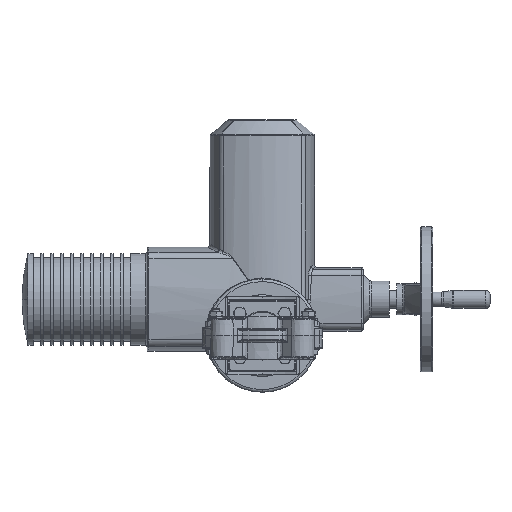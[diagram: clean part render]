
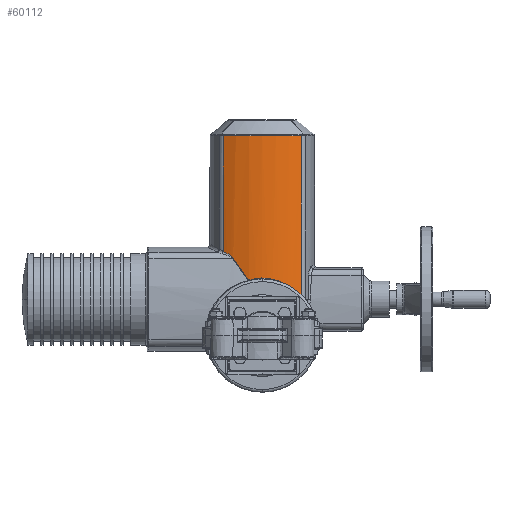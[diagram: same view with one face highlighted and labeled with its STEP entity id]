
A CAD part, front view. The second image highlights one B-rep face of the part: STEP entity #60112.
In plain terms, the highlighted cylindrical face has radius 100 mm (diameter 200 mm), a partial arc.
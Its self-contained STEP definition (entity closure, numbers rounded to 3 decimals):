
#91 = CIRCLE ( 'NONE', #32366, 100. ) ;
#2020 = VERTEX_POINT ( 'NONE', #78765 ) ;
#2312 = VERTEX_POINT ( 'NONE', #123331 ) ;
#3168 = CARTESIAN_POINT ( 'NONE',  ( 37.328, 334.227, 47.213 ) ) ;
#5033 = B_SPLINE_CURVE_WITH_KNOTS ( 'NONE', 3,
 ( #43926, #53261, #5104, #73198, #14887, #82954, #24746, #92772 ),
 .UNSPECIFIED., .F., .F.,
 ( 4, 2, 2, 4 ),
 ( 0., 0.002, 0.003, 0.007 ),
 .UNSPECIFIED. ) ;
#5104 = CARTESIAN_POINT ( 'NONE',  ( 38.764, 334.818, 46.82 ) ) ;
#5916 = CARTESIAN_POINT ( 'NONE',  ( 3.673, 327.04, 63.181 ) ) ;
#6329 = CARTESIAN_POINT ( 'NONE',  ( 27.641, 330.874, 54.766 ) ) ;
#8535 = CARTESIAN_POINT ( 'NONE',  ( -33.565, 332.8, 86.957 ) ) ;
#14887 = CARTESIAN_POINT ( 'NONE',  ( 40.164, 335.419, 46.232 ) ) ;
#15397 = VERTEX_POINT ( 'NONE', #24435 ) ;
#15715 = CARTESIAN_POINT ( 'NONE',  ( 8.354, 327.343, 62.546 ) ) ;
#15823 = VECTOR ( 'NONE', #23556, 1000. ) ;
#15923 = DIRECTION ( 'NONE',  ( -1., 0., 0. ) ) ;
#16119 = CARTESIAN_POINT ( 'NONE',  ( 33.093, 332.616, 50.604 ) ) ;
#16478 = EDGE_CURVE ( 'NONE', #15397, #70849, #67644, .T. ) ;
#17451 = B_SPLINE_CURVE_WITH_KNOTS ( 'NONE', 3,
 ( #24295, #53256, #34115, #102142 ),
 .UNSPECIFIED., .F., .F.,
 ( 4, 4 ),
 ( 0., 0.03 ),
 .UNSPECIFIED. ) ;
#17984 = CARTESIAN_POINT ( 'NONE',  ( -43.041, 336.737, 92.391 ) ) ;
#20325 = EDGE_CURVE ( 'NONE', #90077, #2020, #95066, .T. ) ;
#23556 = DIRECTION ( 'NONE',  ( 0., 0., -1. ) ) ;
#24115 = ORIENTED_EDGE ( 'NONE', *, *, #74966, .T. ) ;
#24295 = CARTESIAN_POINT ( 'NONE',  ( -32.064, 332.28, 85.242 ) ) ;
#24435 = CARTESIAN_POINT ( 'NONE',  ( -43.041, 336.737, 220.035 ) ) ;
#24746 = CARTESIAN_POINT ( 'NONE',  ( 42.296, 336.381, 44.907 ) ) ;
#25123 = CARTESIAN_POINT ( 'NONE',  ( -10.443, 327.52, 62.174 ) ) ;
#25550 = CARTESIAN_POINT ( 'NONE',  ( 11.825, 327.695, 61.802 ) ) ;
#25974 = CARTESIAN_POINT ( 'NONE',  ( 36.396, 333.858, 47.439 ) ) ;
#28883 = DIRECTION ( 'NONE',  ( 0., 0., -1. ) ) ;
#29563 = ORIENTED_EDGE ( 'NONE', *, *, #39363, .T. ) ;
#30307 = FACE_OUTER_BOUND ( 'NONE', #48445, .T. ) ;
#32366 = AXIS2_PLACEMENT_3D ( 'NONE', #87107, #28883, #96858 ) ;
#34115 = CARTESIAN_POINT ( 'NONE',  ( -20.733, 328.999, 69.042 ) ) ;
#34947 = CARTESIAN_POINT ( 'NONE',  ( -14.967, 328.126, 60.881 ) ) ;
#35158 = DIRECTION ( 'NONE',  ( 0., 0., -1. ) ) ;
#35374 = CARTESIAN_POINT ( 'NONE',  ( 17.386, 328.499, 60.082 ) ) ;
#39363 = EDGE_CURVE ( 'NONE', #87519, #99340, #99956, .T. ) ;
#41534 = CARTESIAN_POINT ( 'NONE',  ( -14.967, 328.126, 60.881 ) ) ;
#41992 = CARTESIAN_POINT ( 'NONE',  ( 36.396, 333.858, 47.439 ) ) ;
#42014 = ORIENTED_EDGE ( 'NONE', *, *, #20325, .F. ) ;
#43044 = ORIENTED_EDGE ( 'NONE', *, *, #117331, .T. ) ;
#43926 = CARTESIAN_POINT ( 'NONE',  ( 37.791, 334.416, 47.097 ) ) ;
#44744 = CARTESIAN_POINT ( 'NONE',  ( -6.964, 327.236, 62.77 ) ) ;
#45150 = CARTESIAN_POINT ( 'NONE',  ( 21.604, 329.356, 58.202 ) ) ;
#45273 = CARTESIAN_POINT ( 'NONE',  ( 43.041, 336.737, 220.035 ) ) ;
#47352 = CARTESIAN_POINT ( 'NONE',  ( -39.094, 334.952, 90.65 ) ) ;
#47812 = B_SPLINE_CURVE_WITH_KNOTS ( 'NONE', 3,
 ( #41992, #51776, #3168, #71275 ),
 .UNSPECIFIED., .F., .F.,
 ( 4, 4 ),
 ( 0.008, 0.009 ),
 .UNSPECIFIED. ) ;
#48445 = EDGE_LOOP ( 'NONE', ( #83744, #114310, #70071, #29563, #24115, #49627, #42014, #43044 ) ) ;
#48582 = AXIS2_PLACEMENT_3D ( 'NONE', #93384, #35158, #15923 ) ;
#49627 = ORIENTED_EDGE ( 'NONE', *, *, #122247, .T. ) ;
#51776 = CARTESIAN_POINT ( 'NONE',  ( 36.862, 334.041, 47.327 ) ) ;
#53256 = CARTESIAN_POINT ( 'NONE',  ( -26.44, 330.376, 77.158 ) ) ;
#53261 = CARTESIAN_POINT ( 'NONE',  ( 38.283, 334.617, 46.974 ) ) ;
#54495 = CARTESIAN_POINT ( 'NONE',  ( -3.436, 327.052, 63.155 ) ) ;
#54933 = CARTESIAN_POINT ( 'NONE',  ( 23.652, 329.836, 57.129 ) ) ;
#57162 = CARTESIAN_POINT ( 'NONE',  ( -36.228, 333.787, 89.011 ) ) ;
#60112 = ADVANCED_FACE ( 'NONE', ( #30307 ), #69792, .T. ) ;
#64335 = CARTESIAN_POINT ( 'NONE',  ( 1.316, 326.981, 63.304 ) ) ;
#64740 = CARTESIAN_POINT ( 'NONE',  ( 25.164, 330.217, 56.268 ) ) ;
#66920 = CARTESIAN_POINT ( 'NONE',  ( -33.985, 332.951, 87.329 ) ) ;
#67644 = LINE ( 'NONE', #110311, #15823 ) ;
#69792 = CYLINDRICAL_SURFACE ( 'NONE', #48582, 100. ) ;
#70071 = ORIENTED_EDGE ( 'NONE', *, *, #88634, .T. ) ;
#70849 = VERTEX_POINT ( 'NONE', #70902 ) ;
#70902 = CARTESIAN_POINT ( 'NONE',  ( -43.041, 336.737, 92.391 ) ) ;
#71275 = CARTESIAN_POINT ( 'NONE',  ( 37.791, 334.416, 47.097 ) ) ;
#73198 = CARTESIAN_POINT ( 'NONE',  ( 39.706, 335.219, 46.448 ) ) ;
#73331 = CARTESIAN_POINT ( 'NONE',  ( 36.396, 333.858, 47.439 ) ) ;
#74020 = CARTESIAN_POINT ( 'NONE',  ( 7.186, 327.252, 62.737 ) ) ;
#74439 = CARTESIAN_POINT ( 'NONE',  ( 29.519, 331.438, 53.45 ) ) ;
#74966 = EDGE_CURVE ( 'NONE', #99340, #86247, #47812, .T. ) ;
#76665 = CARTESIAN_POINT ( 'NONE',  ( -32.772, 332.521, 86.153 ) ) ;
#78765 = CARTESIAN_POINT ( 'NONE',  ( 43.041, 336.737, 44.194 ) ) ;
#80446 = CARTESIAN_POINT ( 'NONE',  ( 43.041, 336.737, 237.75 ) ) ;
#82954 = CARTESIAN_POINT ( 'NONE',  ( 41.482, 336.005, 45.502 ) ) ;
#83744 = ORIENTED_EDGE ( 'NONE', *, *, #16478, .T. ) ;
#83785 = CARTESIAN_POINT ( 'NONE',  ( 10.68, 327.565, 62.077 ) ) ;
#84209 = CARTESIAN_POINT ( 'NONE',  ( 34.788, 333.23, 49.074 ) ) ;
#86247 = VERTEX_POINT ( 'NONE', #114032 ) ;
#87107 = CARTESIAN_POINT ( 'NONE',  ( 0., 427., 220.035 ) ) ;
#87519 = VERTEX_POINT ( 'NONE', #41534 ) ;
#88634 = EDGE_CURVE ( 'NONE', #2312, #87519, #17451, .T. ) ;
#90077 = VERTEX_POINT ( 'NONE', #45273 ) ;
#90284 = DIRECTION ( 'NONE',  ( 0., 0., -1. ) ) ;
#90366 = B_SPLINE_CURVE_WITH_KNOTS ( 'NONE', 3,
 ( #17984, #124745, #105635, #47352, #115403, #57162, #125190, #66920, #8535, #76665, #101066, #106455 ),
 .UNSPECIFIED., .F., .F.,
 ( 4, 2, 2, 2, 2, 4 ),
 ( 0., 0.003, 0.007, 0.01, 0.012, 0.014 ),
 .UNSPECIFIED. ) ;
#92051 = VECTOR ( 'NONE', #90284, 1000. ) ;
#92772 = CARTESIAN_POINT ( 'NONE',  ( 43.041, 336.737, 44.194 ) ) ;
#93182 = CARTESIAN_POINT ( 'NONE',  ( -12.724, 327.787, 61.609 ) ) ;
#93384 = CARTESIAN_POINT ( 'NONE',  ( 0., 427., 237.75 ) ) ;
#93594 = CARTESIAN_POINT ( 'NONE',  ( 15.204, 328.137, 60.862 ) ) ;
#95066 = LINE ( 'NONE', #80446, #92051 ) ;
#96858 = DIRECTION ( 'NONE',  ( 1., 0., 0. ) ) ;
#99340 = VERTEX_POINT ( 'NONE', #73331 ) ;
#99956 = B_SPLINE_CURVE_WITH_KNOTS ( 'NONE', 3,
 ( #34947, #93182, #25123, #44744, #112723, #54495, #122536, #64335, #5916, #74020, #15715, #83785, #25550, #93594, #35374, #103402, #45150, #113145, #54933, #122937, #64740, #6329, #74439, #16119, #84209, #25974 ),
 .UNSPECIFIED., .F., .F.,
 ( 4, 2, 2, 2, 2, 2, 2, 2, 2, 2, 2, 2, 4 ),
 ( 0., 0.007, 0.011, 0.014, 0.021, 0.025, 0.028, 0.035, 0.039, 0.041, 0.042, 0.05, 0.057 ),
 .UNSPECIFIED. ) ;
#101066 = CARTESIAN_POINT ( 'NONE',  ( -32.398, 332.393, 85.723 ) ) ;
#102142 = CARTESIAN_POINT ( 'NONE',  ( -14.967, 328.126, 60.881 ) ) ;
#103402 = CARTESIAN_POINT ( 'NONE',  ( 20.562, 329.131, 58.699 ) ) ;
#105635 = CARTESIAN_POINT ( 'NONE',  ( -41.052, 335.808, 91.582 ) ) ;
#106455 = CARTESIAN_POINT ( 'NONE',  ( -32.064, 332.28, 85.242 ) ) ;
#110311 = CARTESIAN_POINT ( 'NONE',  ( -43.041, 336.737, 237.75 ) ) ;
#111607 = EDGE_CURVE ( 'NONE', #70849, #2312, #90366, .T. ) ;
#112723 = CARTESIAN_POINT ( 'NONE',  ( -5.794, 327.161, 62.927 ) ) ;
#113145 = CARTESIAN_POINT ( 'NONE',  ( 23.143, 329.713, 57.404 ) ) ;
#114032 = CARTESIAN_POINT ( 'NONE',  ( 37.791, 334.416, 47.097 ) ) ;
#114310 = ORIENTED_EDGE ( 'NONE', *, *, #111607, .T. ) ;
#115403 = CARTESIAN_POINT ( 'NONE',  ( -38.126, 334.548, 90.142 ) ) ;
#117331 = EDGE_CURVE ( 'NONE', #90077, #15397, #91, .T. ) ;
#122247 = EDGE_CURVE ( 'NONE', #86247, #2020, #5033, .T. ) ;
#122536 = CARTESIAN_POINT ( 'NONE',  ( -2.243, 327.018, 63.226 ) ) ;
#122937 = CARTESIAN_POINT ( 'NONE',  ( 24.662, 330.087, 56.561 ) ) ;
#123331 = CARTESIAN_POINT ( 'NONE',  ( -32.064, 332.28, 85.242 ) ) ;
#124745 = CARTESIAN_POINT ( 'NONE',  ( -42.042, 336.26, 92.005 ) ) ;
#125190 = CARTESIAN_POINT ( 'NONE',  ( -35.292, 333.43, 88.385 ) ) ;
